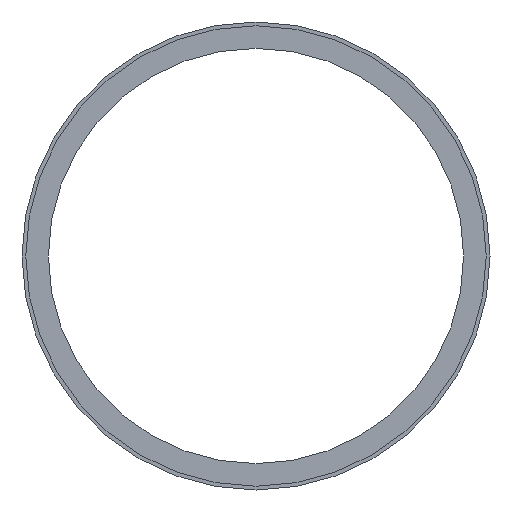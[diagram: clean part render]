
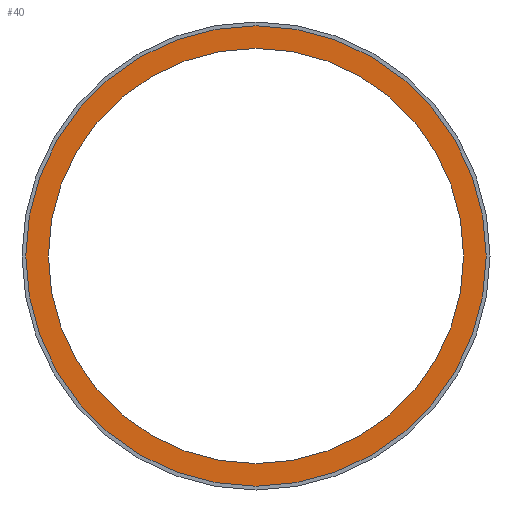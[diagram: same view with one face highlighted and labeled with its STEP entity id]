
A CAD part, front view. The second image highlights one B-rep face of the part: STEP entity #40.
In plain terms, the highlighted planar face has unit normal (0, -1, 0).
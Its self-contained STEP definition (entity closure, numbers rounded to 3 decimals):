
#40 = ADVANCED_FACE( '', ( #81, #82 ), #83, .F. );
#81 = FACE_OUTER_BOUND( '', #120, .T. );
#82 = FACE_BOUND( '', #121, .T. );
#83 = PLANE( '', #122 );
#120 = EDGE_LOOP( '', ( #161 ) );
#121 = EDGE_LOOP( '', ( #162 ) );
#122 = AXIS2_PLACEMENT_3D( '', #163, #164, #165 );
#161 = ORIENTED_EDGE( '', *, *, #191, .T. );
#162 = ORIENTED_EDGE( '', *, *, #186, .F. );
#163 = CARTESIAN_POINT( '', ( 0., 0., 31. ) );
#164 = DIRECTION( '', ( 0., 1., 0. ) );
#165 = DIRECTION( '', ( 0., 0., 1. ) );
#186 = EDGE_CURVE( '', #203, #203, #204, .T. );
#191 = EDGE_CURVE( '', #211, #211, #212, .T. );
#203 = VERTEX_POINT( '', #227 );
#204 = CIRCLE( '', #228, 27.5 );
#211 = VERTEX_POINT( '', #235 );
#212 = CIRCLE( '', #236, 30.5 );
#227 = CARTESIAN_POINT( '', ( 0., 0., -27.5 ) );
#228 = AXIS2_PLACEMENT_3D( '', #251, #252, #253 );
#235 = CARTESIAN_POINT( '', ( 0., 0., -30.5 ) );
#236 = AXIS2_PLACEMENT_3D( '', #260, #261, #262 );
#251 = CARTESIAN_POINT( '', ( 0., 0., 0. ) );
#252 = DIRECTION( '', ( 0., -1., 0. ) );
#253 = DIRECTION( '', ( 0., 0., -1. ) );
#260 = CARTESIAN_POINT( '', ( 0., 0., 0. ) );
#261 = DIRECTION( '', ( 0., -1., 0. ) );
#262 = DIRECTION( '', ( 0., 0., -1. ) );
